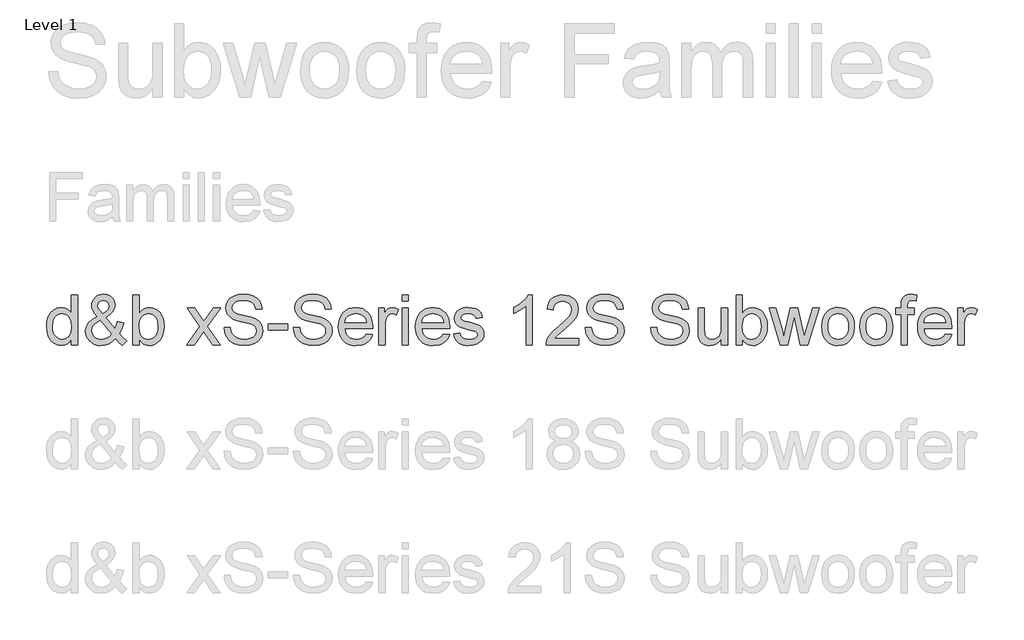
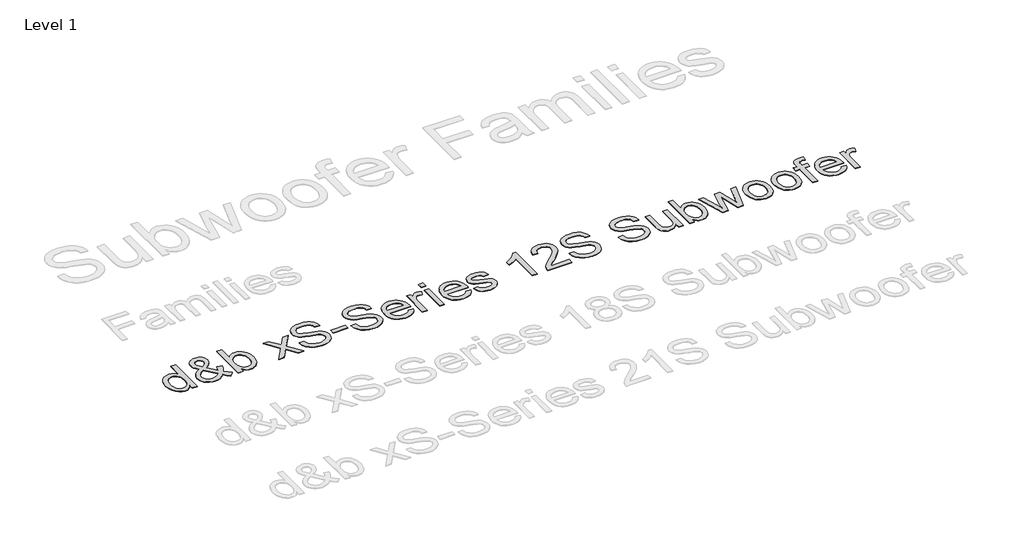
# One storey, part 23 of 55: 1 proxy.
"""IFC4 building model written with IfcOpenShell, lengths in millimetres."""

from ifc_helpers import new_model, si_unit, origin, origin_with_axes, place, context, project, spatial, polyline, outline, extrude, element, save

model = new_model("IFC4")

# Units and contexts
model_context = context("Model", 3, world=origin())
ifc_project = project(units=[si_unit("LENGTHUNIT", "METRE", prefix="MILLI")], contexts=[model_context])

# Site, building, storey
site = spatial("IfcSite", under=ifc_project)
building = spatial("IfcBuilding", under=site)
storey = spatial("IfcBuildingStorey", under=building, Name="Level 1", Elevation=0.0)

# Proxy
placement = place(None, origin())
element("IfcBuildingElementProxy", 1, Name="400mm Arial", ObjectType="400mm Arial", at=placement, inside=storey, context=model_context, shape_type="SweptSolid", body=[
    extrude(outline(polyline([(-20879.8211974, -14148.6945164), (-20879.8211974, -14101.3113154), (-20894.8491769, -14124.7883181), (-20913.0532043, -14141.5576057), (-20934.4332796, -14151.6191783), (-20958.9894028, -14154.9730358), (-20991.4611202, -14150.1169935), (-21021.1859854, -14135.5488665), (-21046.3491139, -14112.2864616), (-21065.1356211, -14081.3475858), (-21076.8342686, -14043.9830379), (-21080.7338177, -14001.4436165), (-21077.1408369, -13959.4314926), (-21066.3618945, -13921.4905962), (-21048.4092531, -13889.7791682), (-21023.2951755, -13866.4554497), (-20992.9203855, -13852.1080519), (-20959.1856065, -13847.325586), (-20934.6110892, -13850.7468885), (-20912.8815261, -13861.0107962), (-20894.4629008, -13876.7438829), (-20879.8211974, -13896.5727224), (-20879.8211974, -13746.8692758), (-20829.5930424, -13746.8692758), (-20829.5930424, -14148.6945164), (-20879.8211974, -14148.6945164)]), holes=[polyline([(-21030.5056627, -14001.2474128), (-21029.089317, -14025.6042665), (-21024.8402799, -14046.6808392), (-21017.7585515, -14064.4771307), (-21007.8441318, -14078.9931411), (-20983.1469871, -14098.3069458), (-20969.2717046, -14103.135397), (-20954.3786151, -14104.7448807), (-20939.415015, -14103.2089734), (-20925.6225058, -14098.6012514), (-20901.5507606, -14080.1703635), (-20892.0440767, -14066.2613584), (-20885.2535882, -14049.1088603), (-20879.8211974, -14005.0733855), (-20885.3516901, -13956.9298951), (-20892.2648059, -13938.3947739), (-20901.9431681, -13923.5507354), (-20913.6448812, -13912.1770504), (-20926.6280499, -13904.0529896), (-20940.8926743, -13899.1785532), (-20956.4387543, -13897.5537411), (-20971.6261493, -13899.1141738), (-20985.5014319, -13903.7954722), (-20998.064602, -13911.5976362), (-21009.3156597, -13922.5206658), (-21018.586286, -13936.8036843), (-21025.2081619, -13954.6858149), (-21030.5056627, -14001.2474128)])]), origin_with_axes(), (0.0, 0.0, 1.0), 5.0),
    extrude(outline(polyline([(-20523.809528, -14099.0549725), (-20549.3405384, -14123.5191252), (-20577.0788409, -14140.99352), (-20607.0734862, -14151.4781569), (-20639.3735254, -14154.9730358), (-20668.6814577, -14152.3855991), (-20694.8010793, -14144.623289), (-20717.7323904, -14131.6861055), (-20737.4753908, -14113.5740486), (-20750.308341, -14096.2038871), (-20759.4747341, -14077.8404442), (-20764.9745699, -14058.4837198), (-20766.8078485, -14038.1337141), (-20760.9094739, -14002.9396699), (-20743.2143499, -13971.3263438), (-20713.796053, -13943.3182613), (-20672.7281596, -13918.9399477), (-20694.6416638, -13890.5885086), (-20707.7995765, -13868.1231814), (-20714.3846642, -13848.9442668), (-20716.5796934, -13830.4520651), (-20714.8506481, -13812.8979626), (-20709.6635119, -13796.5333452), (-20701.018285, -13781.3582129), (-20688.9149674, -13767.3725657), (-20674.1935562, -13755.6555241), (-20657.6940487, -13747.2862088), (-20639.4164449, -13742.2646195), (-20619.3607448, -13740.5907564), (-20600.212487, -13742.1910431), (-20582.8913764, -13746.9919032), (-20567.397413, -13754.9933366), (-20553.7305969, -13766.1953433), (-20542.5715097, -13779.6414302), (-20534.6007332, -13794.3751041), (-20529.8182672, -13810.396365), (-20528.2241119, -13827.7052129), (-20532.9452642, -13855.68877), (-20547.108721, -13881.563137), (-20570.7144823, -13905.3283139), (-20603.7625482, -13926.9843007), (-20531.069066, -14017.5323224), (-20518.6837055, -13991.6579554), (-20509.3885538, -13961.9085647), (-20459.1603987, -13972.7978718), (-20474.6114425, -14019.3226815), (-20494.6732739, -14055.4977443), (-20466.1256311, -14088.8033276), (-20434.0463211, -14116.3209009), (-20471.7174374, -14154.9730358), (-20497.3465498, -14131.52669), (-20523.809528, -14099.0549725)]), holes=[polyline([(-20557.4584678, -14062.8553842), (-20647.1235727, -13950.9211558), (-20681.3733865, -13972.7733463), (-20702.305872, -13993.0068561), (-20713.0112381, -14012.3329235), (-20716.5796934, -14031.4627873), (-20711.6991256, -14055.1543878), (-20697.0574222, -14079.7289051), (-20686.2784798, -14090.6733944), (-20673.4639236, -14098.4908868), (-20658.6137537, -14103.1813823), (-20641.7279702, -14104.7448807), (-20619.0051256, -14101.8263502), (-20595.5710425, -14093.0707588), (-20574.1480476, -14079.6798541), (-20557.4584678, -14062.8553842)]), polyline([(-20629.1709314, -13895.2973981), (-20602.9041569, -13878.6323438), (-20587.8700461, -13864.1500559), (-20580.8067117, -13850.0601755), (-20578.452267, -13834.5723435), (-20581.5547385, -13817.0243723), (-20590.862153, -13803.0325938), (-20604.829406, -13793.8723321), (-20621.9113933, -13790.8189115), (-20639.3612626, -13793.8478066), (-20653.6473468, -13802.9344919), (-20663.1754905, -13816.3867102), (-20666.3515384, -13832.5122043), (-20662.0350563, -13850.9063041), (-20648.9875082, -13871.360543), (-20629.1709314, -13895.2973981)])]), origin_with_axes(), (0.0, 0.0, 1.0), 5.0),
    extrude(outline(polyline([(-20333.590011, -14148.6945164), (-20383.8181661, -14148.6945164), (-20383.8181661, -13746.8692758), (-20333.590011, -13746.8692758), (-20333.590011, -13895.8860093), (-20317.0721094, -13874.6408241), (-20298.4204923, -13859.4656918), (-20277.6351595, -13850.3606124), (-20254.7161112, -13847.325586), (-20228.8417442, -13850.0601755), (-20204.3898543, -13858.263944), (-20182.758393, -13871.4218567), (-20165.3453119, -13889.0188788), (-20151.6968898, -13910.883332), (-20141.3594058, -13936.8435381), (-20134.8478945, -13965.8203766), (-20132.6773907, -13996.734727), (-20134.9245365, -14032.4070178), (-20141.6659741, -14063.7873519), (-20152.9017034, -14090.8757295), (-20168.6317244, -14113.6721505), (-20187.5132678, -14131.7412878), (-20208.2035643, -14144.6478145), (-20230.702614, -14152.3917305), (-20255.0104168, -14154.9730358), (-20278.6836232, -14151.6437038), (-20299.671291, -14141.6557076), (-20317.9734203, -14125.0090473), (-20333.590011, -14101.7037229), (-20333.590011, -14148.6945164)]), holes=[polyline([(-20333.590011, -13999.0891717), (-20330.1564457, -14040.9786682), (-20319.8557498, -14069.3301073), (-20307.6849872, -14084.8240707), (-20293.5399244, -14095.8911874), (-20277.4205617, -14102.5314574), (-20259.3268989, -14104.7448807), (-20244.3050508, -14103.1139372), (-20230.3377977, -14098.2211067), (-20217.4251396, -14090.0663891), (-20205.5670767, -14078.6497845), (-20195.6526569, -14064.0019498), (-20188.5709285, -14046.1535416), (-20184.3218914, -14025.1045601), (-20182.9055458, -14000.8550053), (-20188.3379366, -13954.8942814), (-20195.1284251, -13937.1010555), (-20204.6351089, -13922.7659205), (-20216.0670419, -13911.735592), (-20228.6332778, -13903.8567859), (-20242.3338164, -13899.1295023), (-20257.1686579, -13897.5537411), (-20272.190506, -13899.1846846), (-20286.1577591, -13904.0775151), (-20299.0704171, -13912.2322327), (-20310.9284801, -13923.6488372), (-20320.8428999, -13938.1495192), (-20327.9246283, -13955.556469), (-20332.1736653, -13975.8696865), (-20333.590011, -13999.0891717)])]), origin_with_axes(), (0.0, 0.0, 1.0), 5.0),
    extrude(outline(polyline([(-19950.6003285, -14148.6945164), (-19843.2768878, -14000.2663941), (-19944.3218092, -13853.6041054), (-19884.0872638, -13853.6041054), (-19835.3306367, -13924.3355503), (-19812.4729021, -13957.5920827), (-19792.6563253, -13930.3197641), (-19737.1306695, -13853.6041054), (-19676.6999204, -13853.6041054), (-19782.8461387, -14000.364496), (-19680.623995, -14148.6945164), (-19740.9566422, -14148.6945164), (-19802.5646137, -14059.4218189), (-19813.7482263, -14043.0388074), (-19890.1695795, -14148.6945164), (-19950.6003285, -14148.6945164)])), origin_with_axes(), (0.0, 0.0, 1.0), 5.0),
    extrude(outline(polyline([(-19649.2313981, -14010.56709), (-19599.003243, -14010.56709), (-19593.2397584, -14038.4402825), (-19582.8164352, -14060.844296), (-19566.556051, -14078.6252591), (-19543.2813835, -14092.6293004), (-19514.8318425, -14101.7159856), (-19483.0468381, -14104.7448807), (-19455.063281, -14102.4517496), (-19430.5623402, -14095.5723563), (-19410.7089752, -14084.6830493), (-19396.6681457, -14070.3601769), (-19388.3172244, -14053.9158517), (-19385.533584, -14036.6621862), (-19387.6182486, -14019.849979), (-19393.8722425, -14005.3186402), (-19406.5764341, -13992.9210169), (-19428.0116917, -13982.5099565), (-19501.1466323, -13963.3310418), (-19549.1552327, -13950.639113), (-19579.8733793, -13938.5603208), (-19604.8770922, -13921.6622745), (-19622.5967416, -13901.1835101), (-19633.1549549, -13877.565486), (-19636.6743593, -13851.2496606), (-19632.3210891, -13821.8313637), (-19619.2612782, -13794.3996296), (-19597.8382834, -13771.1494875), (-19568.395461, -13754.2759667), (-19533.054264, -13744.012059), (-19493.9361452, -13740.5907564), (-19451.5561394, -13744.1714745), (-19414.4736342, -13754.9136288), (-19384.013005, -13772.59649), (-19361.4986269, -13796.999329), (-19347.249331, -13826.6015669), (-19341.5839483, -13859.8826247), (-19391.8121033, -13859.8826247), (-19401.0336787, -13829.9125049), (-19409.3968627, -13818.0544419), (-19420.2616443, -13808.2810436), (-19450.3053406, -13795.1844445), (-19491.9741079, -13790.8189115), (-19534.6238939, -13795.1353936), (-19550.9271976, -13800.5309962), (-19563.8827752, -13808.0848398), (-19580.805347, -13827.1411272), (-19586.4462043, -13849.7781326), (-19582.4485532, -13869.0796746), (-19570.4556002, -13884.6042948), (-19542.1041611, -13898.4857088), (-19488.4424407, -13912.6614283), (-19433.0639377, -13926.1259093), (-19399.5621507, -13937.8736077), (-19370.9286687, -13956.0960292), (-19350.9526764, -13978.5858819), (-19339.2172408, -14005.097911), (-19335.3054289, -14035.3868619), (-19339.805852, -14066.3502632), (-19353.3071212, -14095.4742545), (-19375.2574136, -14120.5392811), (-19405.1049061, -14139.3257883), (-19440.9979261, -14151.0612239), (-19481.0848008, -14154.9730358), (-19530.2951491, -14150.7546556), (-19570.7989567, -14138.099515), (-19603.0622077, -14116.958563), (-19627.5508858, -14087.2827487), (-19643.2717098, -14051.1322113), (-19649.2313981, -14010.56709)])), origin_with_axes(), (0.0, 0.0, 1.0), 5.0),
    extrude(outline(polyline([(-19291.3557932, -14029.4026481), (-19291.3557932, -13979.174493), (-19134.3928086, -13979.174493), (-19134.3928086, -14029.4026481), (-19291.3557932, -14029.4026481)])), origin_with_axes(), (0.0, 0.0, 1.0), 5.0),
    extrude(outline(polyline([(-19090.4431729, -14010.56709), (-19040.2150178, -14010.56709), (-19034.4515332, -14038.4402825), (-19024.02821, -14060.844296), (-19007.7678258, -14078.6252591), (-18984.4931583, -14092.6293004), (-18956.0436173, -14101.7159856), (-18924.2586129, -14104.7448807), (-18896.2750558, -14102.4517496), (-18871.774115, -14095.5723563), (-18851.9207499, -14084.6830493), (-18837.8799205, -14070.3601769), (-18829.5289992, -14053.9158517), (-18826.7453587, -14036.6621862), (-18828.8300234, -14019.849979), (-18835.0840173, -14005.3186402), (-18847.7882089, -13992.9210169), (-18869.2234665, -13982.5099565), (-18942.3584071, -13963.3310418), (-18990.3670075, -13950.639113), (-19021.0851541, -13938.5603208), (-19046.088867, -13921.6622745), (-19063.8085164, -13901.1835101), (-19074.3667297, -13877.565486), (-19077.8861341, -13851.2496606), (-19073.5328638, -13821.8313637), (-19060.473053, -13794.3996296), (-19039.0500582, -13771.1494875), (-19009.6072358, -13754.2759667), (-18974.2660388, -13744.012059), (-18935.14792, -13740.5907564), (-18892.7679141, -13744.1714745), (-18855.685409, -13754.9136288), (-18825.2247798, -13772.59649), (-18802.7104017, -13796.999329), (-18788.4611058, -13826.6015669), (-18782.7957231, -13859.8826247), (-18833.0238781, -13859.8826247), (-18842.2454535, -13829.9125049), (-18850.6086375, -13818.0544419), (-18861.4734191, -13808.2810436), (-18891.5171154, -13795.1844445), (-18933.1858827, -13790.8189115), (-18975.8356687, -13795.1353936), (-18992.1389724, -13800.5309962), (-19005.09455, -13808.0848398), (-19022.0171218, -13827.1411272), (-19027.657979, -13849.7781326), (-19023.660328, -13869.0796746), (-19011.667375, -13884.6042948), (-18983.3159359, -13898.4857088), (-18929.6542155, -13912.6614283), (-18874.2757125, -13926.1259093), (-18840.7739255, -13937.8736077), (-18812.1404435, -13956.0960292), (-18792.1644512, -13978.5858819), (-18780.4290156, -14005.097911), (-18776.5172037, -14035.3868619), (-18781.0176267, -14066.3502632), (-18794.518896, -14095.4742545), (-18816.4691883, -14120.5392811), (-18846.3166809, -14139.3257883), (-18882.2097009, -14151.0612239), (-18922.2965756, -14154.9730358), (-18971.5069238, -14150.7546556), (-19012.0107315, -14138.099515), (-19044.2739825, -14116.958563), (-19068.7626606, -14087.2827487), (-19084.4834846, -14051.1322113), (-19090.4431729, -14010.56709)])), origin_with_axes(), (0.0, 0.0, 1.0), 5.0),
    extrude(outline(polyline([(-18500.850962, -14060.795245), (-18451.6038255, -14067.0737644), (-18459.1546035, -14086.7983707), (-18469.3480004, -14104.180795), (-18482.1840164, -14119.2210372), (-18497.6626513, -14131.9190974), (-18515.6244897, -14142.0051955), (-18535.9101161, -14149.2095512), (-18583.4527326, -14154.9730358), (-18614.618469, -14152.4867667), (-18642.3874282, -14145.0279592), (-18666.7596104, -14132.5966135), (-18687.7350155, -14115.1927294), (-18704.602405, -14093.300685), (-18716.6505403, -14067.4048582), (-18723.8794215, -14037.5052491), (-18726.2890486, -14003.6018575), (-18723.8548961, -13968.5488348), (-18716.5524385, -13937.6528785), (-18704.3816758, -13910.9139888), (-18687.342608, -13888.3321657), (-18666.4223852, -13870.3917871), (-18642.6081574, -13857.5772309), (-18615.8999246, -13849.8884972), (-18586.2976867, -13847.325586), (-18557.6488763, -13849.8823658), (-18531.7407868, -13857.5527054), (-18508.5734182, -13870.3366048), (-18488.1467704, -13888.2340638), (-18471.472519, -13910.766836), (-18459.5623394, -13937.4566748), (-18452.4162316, -13968.3035801), (-18450.0341957, -14003.3075519), (-18450.3285013, -14016.8456094), (-18676.0608935, -14016.8456094), (-18673.1515601, -14036.8890467), (-18667.3666157, -14054.4431493), (-18658.7060604, -14069.507917), (-18647.1698942, -14082.0833498), (-18633.3957791, -14091.9977696), (-18618.0213774, -14099.079498), (-18582.4717139, -14104.7448807), (-18555.7389556, -14102.1206558), (-18533.2245775, -14094.2479811), (-18514.9285796, -14080.6363473), (-18500.850962, -14060.795245)]), holes=[polyline([(-18676.0608935, -13966.6174543), (-18500.2623508, -13966.6174543), (-18507.0559049, -13940.0808997), (-18520.3732332, -13921.0981887), (-18534.0707061, -13910.7974929), (-18549.65664, -13903.439853), (-18567.1310348, -13899.025269), (-18586.4938904, -13897.5537411), (-18620.3512967, -13902.2503679), (-18648.3471166, -13916.3402483), (-18667.8080741, -13938.3028034), (-18676.0608935, -13966.6174543)])]), origin_with_axes(), (0.0, 0.0, 1.0), 5.0),
    extrude(outline(polyline([(-18399.8060406, -14148.6945164), (-18399.8060406, -13853.6041054), (-18355.8564049, -13853.6041054), (-18355.8564049, -13897.2594355), (-18339.6205462, -13871.9491542), (-18324.6600117, -13857.0376707), (-18309.6504263, -13849.7536071), (-18293.2674148, -13847.325586), (-18268.2514391, -13851.2006097), (-18242.843056, -13862.8256807), (-18259.618475, -13907.8544369), (-18277.2768108, -13900.128915), (-18294.9351465, -13897.5537411), (-18309.9324692, -13900.0308132), (-18323.3356365, -13907.4620295), (-18334.1636299, -13919.2833042), (-18341.4354307, -13934.9305518), (-18347.5422718, -13962.9876853), (-18349.5778855, -13993.5954673), (-18349.5778855, -14148.6945164), (-18399.8060406, -14148.6945164)])), origin_with_axes(), (0.0, 0.0, 1.0), 5.0),
    extrude(outline(polyline([(-18211.4504591, -13797.0974309), (-18211.4504591, -13746.8692758), (-18161.222304, -13746.8692758), (-18161.222304, -13797.0974309), (-18211.4504591, -13797.0974309)])), origin_with_axes(), (0.0, 0.0, 1.0), 5.0),
    extrude(outline(polyline([(-18211.4504591, -14148.6945164), (-18211.4504591, -13853.6041054), (-18161.222304, -13853.6041054), (-18161.222304, -14148.6945164), (-18211.4504591, -14148.6945164)])), origin_with_axes(), (0.0, 0.0, 1.0), 5.0),
    extrude(outline(polyline([(-17879.2775429, -14060.795245), (-17830.0304065, -14067.0737644), (-17837.5811844, -14086.7983707), (-17847.7745814, -14104.180795), (-17860.6105973, -14119.2210372), (-17876.0892323, -14131.9190974), (-17894.0510707, -14142.0051955), (-17914.336697, -14149.2095512), (-17961.8793136, -14154.9730358), (-17993.0450499, -14152.4867667), (-18020.8140092, -14145.0279592), (-18045.1861914, -14132.5966135), (-18066.1615965, -14115.1927294), (-18083.0289859, -14093.300685), (-18095.0771213, -14067.4048582), (-18102.3060025, -14037.5052491), (-18104.7156295, -14003.6018575), (-18102.281477, -13968.5488348), (-18094.9790194, -13937.6528785), (-18082.8082567, -13910.9139888), (-18065.769189, -13888.3321657), (-18044.8489662, -13870.3917871), (-18021.0347384, -13857.5772309), (-17994.3265055, -13849.8884972), (-17964.7242676, -13847.325586), (-17936.0754573, -13849.8823658), (-17910.1673678, -13857.5527054), (-17886.9999991, -13870.3366048), (-17866.5733513, -13888.2340638), (-17849.8990999, -13910.766836), (-17837.9889203, -13937.4566748), (-17830.8428126, -13968.3035801), (-17828.4607766, -14003.3075519), (-17828.7550822, -14016.8456094), (-18054.4874745, -14016.8456094), (-18051.578141, -14036.8890467), (-18045.7931967, -14054.4431493), (-18037.1326413, -14069.507917), (-18025.5964751, -14082.0833498), (-18011.8223601, -14091.9977696), (-17996.4479584, -14099.079498), (-17960.8982949, -14104.7448807), (-17934.1655366, -14102.1206558), (-17911.6511585, -14094.2479811), (-17893.3551606, -14080.6363473), (-17879.2775429, -14060.795245)]), holes=[polyline([(-18054.4874745, -13966.6174543), (-17878.6889317, -13966.6174543), (-17885.4824859, -13940.0808997), (-17898.7998141, -13921.0981887), (-17912.4972871, -13910.7974929), (-17928.0832209, -13903.439853), (-17945.5576157, -13899.025269), (-17964.9204714, -13897.5537411), (-17998.7778777, -13902.2503679), (-18026.7736975, -13916.3402483), (-18046.234655, -13938.3028034), (-18054.4874745, -13966.6174543)])]), origin_with_axes(), (0.0, 0.0, 1.0), 5.0),
    extrude(outline(polyline([(-17797.0681797, -14060.795245), (-17746.8400246, -14054.5167257), (-17738.918299, -14076.0010342), (-17723.5898825, -14091.7954345), (-17700.7566734, -14101.5075192), (-17670.3205696, -14104.7448807), (-17640.2523479, -14101.7772993), (-17619.1113959, -14092.874555), (-17606.6034081, -14079.9741597), (-17602.4340788, -14065.0136253), (-17606.6279335, -14052.2113318), (-17619.2094978, -14042.4501962), (-17670.9091808, -14028.1273239), (-17746.545719, -14003.5528066), (-17765.6878455, -13991.2042343), (-17779.5569967, -13974.858011), (-17787.9814944, -13955.556469), (-17790.7896603, -13934.3419406), (-17788.5333174, -13914.880983), (-17781.7642887, -13896.9160789), (-17771.0957109, -13881.1584668), (-17757.1407205, -13868.3193852), (-17725.2085633, -13853.4569526), (-17704.3251287, -13848.8584276), (-17681.9946916, -13847.325586), (-17649.302245, -13849.7903953), (-17620.8772295, -13857.1848234), (-17598.0194949, -13868.785369), (-17582.0288908, -13883.8685308), (-17571.4338893, -13903.5502176), (-17564.7629625, -13928.946338), (-17614.9911176, -13935.2248574), (-17621.3309506, -13919.4181943), (-17633.8757267, -13907.5110804), (-17652.748073, -13900.0430759), (-17678.070617, -13897.5537411), (-17706.9125654, -13899.9327113), (-17726.140531, -13907.069622), (-17736.9562617, -13917.3703179), (-17740.5615053, -13929.2406436), (-17734.5772915, -13943.8578215), (-17715.8398352, -13954.9433323), (-17672.5769125, -13965.6364356), (-17598.8533607, -13989.2789852), (-17579.3801404, -14000.5852252), (-17564.6158097, -14016.0607944), (-17555.3083952, -14035.7547439), (-17552.2059237, -14059.7161245), (-17555.8479555, -14084.4868455), (-17566.7740507, -14107.7860386), (-17584.5672766, -14127.7865564), (-17608.8107, -14142.6612517), (-17638.0941069, -14151.8950898), (-17671.0072827, -14154.9730358), (-17698.040478, -14153.4892451), (-17721.6523707, -14149.037873), (-17741.8429609, -14141.6189194), (-17758.6122485, -14131.2323844), (-17772.3097214, -14117.9273189), (-17783.2848676, -14101.7527738), (-17791.5376871, -14082.7087492), (-17797.0681797, -14060.795245)])), origin_with_axes(), (0.0, 0.0, 1.0), 5.0),
    extrude(outline(polyline([(-17162.9377219, -14148.6945164), (-17213.165877, -14148.6945164), (-17213.165877, -13835.5533621), (-17234.1351507, -13852.5127221), (-17260.7452817, -13869.4475566), (-17313.6221871, -13894.8068888), (-17313.6221871, -13847.325586), (-17274.1729745, -13825.8658029), (-17239.9967371, -13800.3347925), (-17213.0555124, -13773.1851012), (-17195.3113375, -13746.8692758), (-17162.9377219, -13746.8692758), (-17162.9377219, -14148.6945164)])), origin_with_axes(), (0.0, 0.0, 1.0), 5.0),
    extrude(outline(polyline([(-16786.2265588, -14098.4663614), (-16786.2265588, -14148.6945164), (-17049.924373, -14148.6945164), (-17048.820727, -14131.0116552), (-17044.5287704, -14114.0645579), (-17032.1311471, -14087.0007058), (-17013.9700393, -14060.7461941), (-16987.7155276, -14033.2654091), (-16951.0376927, -14002.522737), (-16896.8486748, -13954.3792466), (-16864.3646946, -13918.8418458), (-16848.1410986, -13889.9998974), (-16842.7332333, -13861.9427639), (-16847.846793, -13836.7918982), (-16863.1874722, -13815.8839381), (-16886.7687081, -13801.7940577), (-16916.6039379, -13797.0974309), (-16947.9352212, -13801.6836931), (-16972.2767465, -13815.4424797), (-16987.9853077, -13837.2946702), (-16993.4176985, -13866.1611441), (-17043.6458536, -13859.8826247), (-17039.3263058, -13833.9530755), (-17031.4689596, -13811.2976759), (-17020.0738147, -13791.9164261), (-17005.1408714, -13775.8093261), (-16987.0134861, -13763.1480541), (-16966.0350153, -13754.1042884), (-16942.2054591, -13748.678029), (-16915.5248174, -13746.8692758), (-16888.6050524, -13748.8803641), (-16864.6467375, -13754.9136288), (-16843.6498726, -13764.96907), (-16825.6144578, -13779.0466877), (-16811.1291042, -13796.1041495), (-16800.7824231, -13815.0991232), (-16794.5744144, -13836.0316087), (-16792.5050782, -13858.9016061), (-16794.7368957, -13882.9243004), (-16801.432348, -13906.5300617), (-16813.3149364, -13930.5404933), (-16831.1081622, -13955.7771982), (-16859.4718641, -13985.9067336), (-16903.0658805, -14024.5956567), (-16960.8478792, -14072.9108254), (-16983.5094101, -14098.4663614), (-16786.2265588, -14098.4663614)])), origin_with_axes(), (0.0, 0.0, 1.0), 5.0),
    extrude(outline(polyline([(-16735.9984038, -14010.56709), (-16685.7702487, -14010.56709), (-16680.0067641, -14038.4402825), (-16669.5834409, -14060.844296), (-16653.3230567, -14078.6252591), (-16630.0483891, -14092.6293004), (-16601.5988482, -14101.7159856), (-16569.8138438, -14104.7448807), (-16541.8302867, -14102.4517496), (-16517.3293458, -14095.5723563), (-16497.4759808, -14084.6830493), (-16483.4351513, -14070.3601769), (-16475.08423, -14053.9158517), (-16472.3005896, -14036.6621862), (-16474.3852543, -14019.849979), (-16480.6392482, -14005.3186402), (-16493.3434397, -13992.9210169), (-16514.7786973, -13982.5099565), (-16587.913638, -13963.3310418), (-16635.9222383, -13950.639113), (-16666.6403849, -13938.5603208), (-16691.6440979, -13921.6622745), (-16709.3637473, -13901.1835101), (-16719.9219606, -13877.565486), (-16723.441365, -13851.2496606), (-16719.0880947, -13821.8313637), (-16706.0282839, -13794.3996296), (-16684.605289, -13771.1494875), (-16655.1624667, -13754.2759667), (-16619.8212697, -13744.012059), (-16580.7031509, -13740.5907564), (-16538.323145, -13744.1714745), (-16501.2406399, -13754.9136288), (-16470.7800107, -13772.59649), (-16448.2656326, -13796.999329), (-16434.0163367, -13826.6015669), (-16428.3509539, -13859.8826247), (-16478.579109, -13859.8826247), (-16487.8006843, -13829.9125049), (-16496.1638684, -13818.0544419), (-16507.02865, -13808.2810436), (-16537.0723462, -13795.1844445), (-16578.7411136, -13790.8189115), (-16621.3908995, -13795.1353936), (-16637.6942033, -13800.5309962), (-16650.6497809, -13808.0848398), (-16667.5723527, -13827.1411272), (-16673.2132099, -13849.7781326), (-16669.2155589, -13869.0796746), (-16657.2226059, -13884.6042948), (-16628.8711668, -13898.4857088), (-16575.2094464, -13912.6614283), (-16519.8309434, -13926.1259093), (-16486.3291564, -13937.8736077), (-16457.6956744, -13956.0960292), (-16437.7196821, -13978.5858819), (-16425.9842464, -14005.097911), (-16422.0724345, -14035.3868619), (-16426.5728576, -14066.3502632), (-16440.0741268, -14095.4742545), (-16462.0244192, -14120.5392811), (-16491.8719118, -14139.3257883), (-16527.7649318, -14151.0612239), (-16567.8518065, -14154.9730358), (-16617.0621547, -14150.7546556), (-16657.5659624, -14138.099515), (-16689.8292134, -14116.958563), (-16714.3178915, -14087.2827487), (-16730.0387154, -14051.1322113), (-16735.9984038, -14010.56709)])), origin_with_axes(), (0.0, 0.0, 1.0), 5.0),
    extrude(outline(polyline([(-16208.6027755, -14010.56709), (-16158.3746204, -14010.56709), (-16152.6111358, -14038.4402825), (-16142.1878126, -14060.844296), (-16125.9274284, -14078.6252591), (-16102.6527609, -14092.6293004), (-16074.2032199, -14101.7159856), (-16042.4182155, -14104.7448807), (-16014.4346584, -14102.4517496), (-15989.9337175, -14095.5723563), (-15970.0803525, -14084.6830493), (-15956.0395231, -14070.3601769), (-15947.6886018, -14053.9158517), (-15944.9049613, -14036.6621862), (-15946.989626, -14019.849979), (-15953.2436199, -14005.3186402), (-15965.9478115, -13992.9210169), (-15987.383069, -13982.5099565), (-16060.5180097, -13963.3310418), (-16108.5266101, -13950.639113), (-16139.2447566, -13938.5603208), (-16164.2484696, -13921.6622745), (-16181.968119, -13901.1835101), (-16192.5263323, -13877.565486), (-16196.0457367, -13851.2496606), (-16191.6924664, -13821.8313637), (-16178.6326556, -13794.3996296), (-16157.2096607, -13771.1494875), (-16127.7668384, -13754.2759667), (-16092.4256414, -13744.012059), (-16053.3075226, -13740.5907564), (-16010.9275167, -13744.1714745), (-15973.8450116, -13754.9136288), (-15943.3843824, -13772.59649), (-15920.8700043, -13796.999329), (-15906.6207084, -13826.6015669), (-15900.9553256, -13859.8826247), (-15951.1834807, -13859.8826247), (-15960.4050561, -13829.9125049), (-15968.7682401, -13818.0544419), (-15979.6330217, -13808.2810436), (-16009.6767179, -13795.1844445), (-16051.3454853, -13790.8189115), (-16093.9952712, -13795.1353936), (-16110.298575, -13800.5309962), (-16123.2541526, -13808.0848398), (-16140.1767244, -13827.1411272), (-16145.8175816, -13849.7781326), (-16141.8199306, -13869.0796746), (-16129.8269776, -13884.6042948), (-16101.4755385, -13898.4857088), (-16047.8138181, -13912.6614283), (-15992.4353151, -13926.1259093), (-15958.9335281, -13937.8736077), (-15930.3000461, -13956.0960292), (-15910.3240538, -13978.5858819), (-15898.5886181, -14005.097911), (-15894.6768063, -14035.3868619), (-15899.1772293, -14066.3502632), (-15912.6784986, -14095.4742545), (-15934.6287909, -14120.5392811), (-15964.4762835, -14139.3257883), (-16000.3693035, -14151.0612239), (-16040.4561782, -14154.9730358), (-16089.6665264, -14150.7546556), (-16130.1703341, -14138.099515), (-16162.4335851, -14116.958563), (-16186.9222632, -14087.2827487), (-16202.6430872, -14051.1322113), (-16208.6027755, -14010.56709)])), origin_with_axes(), (0.0, 0.0, 1.0), 5.0),
    extrude(outline(polyline([(-15637.2575115, -14148.6945164), (-15637.2575115, -14097.975852), (-15655.4308821, -14122.9121199), (-15676.5963595, -14140.7237399), (-15700.7539439, -14151.4107118), (-15727.9036351, -14154.9730358), (-15752.3677878, -14152.4714382), (-15775.1396833, -14144.9666455), (-15794.2450216, -14133.684931), (-15807.7095026, -14119.852568), (-15816.7716624, -14103.0526236), (-15822.6700371, -14082.8681648), (-15825.613093, -14036.1716768), (-15825.613093, -13853.6041054), (-15775.384938, -13853.6041054), (-15775.384938, -14012.5291273), (-15772.3437801, -14063.738301), (-15765.0229284, -14080.8202883), (-15752.4781524, -14093.8065227), (-15735.5433179, -14102.0102912), (-15715.0522907, -14104.7448807), (-15693.3840412, -14101.9489776), (-15673.1137433, -14093.5612681), (-15656.399638, -14080.3543045), (-15645.3999663, -14063.1006389), (-15639.2931252, -14039.4703521), (-15637.2575115, -14007.1335247), (-15637.2575115, -13853.6041054), (-15587.0293564, -13853.6041054), (-15587.0293564, -14148.6945164), (-15637.2575115, -14148.6945164)])), origin_with_axes(), (0.0, 0.0, 1.0), 5.0),
    extrude(outline(polyline([(-15467.7374881, -14148.6945164), (-15517.9656432, -14148.6945164), (-15517.9656432, -13746.8692758), (-15467.7374881, -13746.8692758), (-15467.7374881, -13895.8860093), (-15451.2195865, -13874.6408241), (-15432.5679694, -13859.4656918), (-15411.7826367, -13850.3606124), (-15388.8635884, -13847.325586), (-15362.9892214, -13850.0601755), (-15338.5373314, -13858.263944), (-15316.9058701, -13871.4218567), (-15299.492789, -13889.0188788), (-15285.844367, -13910.883332), (-15275.5068829, -13936.8435381), (-15268.9953716, -13965.8203766), (-15266.8248678, -13996.734727), (-15269.0720137, -14032.4070178), (-15275.8134512, -14063.7873519), (-15287.0491805, -14090.8757295), (-15302.7792015, -14113.6721505), (-15321.6607449, -14131.7412878), (-15342.3510414, -14144.6478145), (-15364.8500911, -14152.3917305), (-15389.1578939, -14154.9730358), (-15412.8311003, -14151.6437038), (-15433.8187682, -14141.6557076), (-15452.1208974, -14125.0090473), (-15467.7374881, -14101.7037229), (-15467.7374881, -14148.6945164)]), holes=[polyline([(-15467.7374881, -13999.0891717), (-15464.3039228, -14040.9786682), (-15454.003227, -14069.3301073), (-15441.8324643, -14084.8240707), (-15427.6874016, -14095.8911874), (-15411.5680388, -14102.5314574), (-15393.474376, -14104.7448807), (-15378.4525279, -14103.1139372), (-15364.4852748, -14098.2211067), (-15351.5726168, -14090.0663891), (-15339.7145538, -14078.6497845), (-15329.800134, -14064.0019498), (-15322.7184056, -14046.1535416), (-15318.4693686, -14025.1045601), (-15317.0530229, -14000.8550053), (-15322.4854137, -13954.8942814), (-15329.2759022, -13937.1010555), (-15338.7825861, -13922.7659205), (-15350.2145191, -13911.735592), (-15362.7807549, -13903.8567859), (-15376.4812935, -13899.1295023), (-15391.316135, -13897.5537411), (-15406.3379831, -13899.1846846), (-15420.3052362, -13904.0775151), (-15433.2178942, -13912.2322327), (-15445.0759572, -13923.6488372), (-15454.990377, -13938.1495192), (-15462.0721054, -13955.556469), (-15466.3211424, -13975.8696865), (-15467.7374881, -13999.0891717)])]), origin_with_axes(), (0.0, 0.0, 1.0), 5.0),
    extrude(outline(polyline([(-15160.9729551, -14148.6945164), (-15251.1285694, -13853.6041054), (-15199.0364788, -13853.6041054), (-15148.0235088, -14025.7728791), (-15132.8177197, -14087.2827487), (-15120.3587828, -14028.029222), (-15079.8427124, -13853.6041054), (-15020.1967783, -13853.6041054), (-14979.6807079, -14027.5387127), (-14968.5951971, -14081.200433), (-14952.7026949, -14024.5956567), (-14901.6897249, -13853.6041054), (-14849.3033288, -13853.6041054), (-14939.7532486, -14148.6945164), (-15000.3802014, -14148.6945164), (-15039.0323364, -13975.6428259), (-15050.2159491, -13921.6867999), (-15099.9535948, -14148.6945164), (-15160.9729551, -14148.6945164)])), origin_with_axes(), (0.0, 0.0, 1.0), 5.0),
    extrude(outline(polyline([(-14827.3285109, -14001.1493109), (-14824.6123155, -13962.932503), (-14816.4637293, -13930.000933), (-14802.8827523, -13902.3546011), (-14783.8693846, -13879.9935072), (-14764.7272581, -13865.7012916), (-14743.5985688, -13855.4925663), (-14720.4833168, -13849.3673311), (-14695.381502, -13847.325586), (-14667.6707907, -13849.8118551), (-14642.6149611, -13857.2706626), (-14620.2140133, -13869.7020083), (-14600.4679472, -13887.1058924), (-14584.3516502, -13908.8937036), (-14572.8400094, -13934.4768306), (-14565.9330249, -13963.8552736), (-14563.6306968, -13997.0290325), (-14567.7019242, -14047.7722224), (-14579.9156064, -14086.3998319), (-14599.9161242, -14115.3276195), (-14627.3478583, -14136.9713435), (-14659.9299404, -14150.4726127), (-14695.381502, -14154.9730358), (-14723.4968835, -14152.4959637), (-14748.7857049, -14145.0647474), (-14771.2479664, -14132.6793869), (-14790.8836679, -14115.3398822), (-14806.8282867, -14093.3405389), (-14818.2173002, -14066.9756626), (-14825.0507082, -14036.2452532), (-14827.3285109, -14001.1493109)]), holes=[polyline([(-14777.1003558, -14001.051209), (-14775.647222, -14025.4141942), (-14771.2878203, -14046.5091609), (-14764.0221509, -14064.3361093), (-14753.8502137, -14078.8950392), (-14741.477116, -14090.2043449), (-14727.6079648, -14098.2824204), (-14712.2427601, -14103.1292656), (-14695.381502, -14104.7448807), (-14678.606083, -14103.1200686), (-14663.302192, -14098.2456322), (-14649.469829, -14090.1215714), (-14637.1089939, -14078.7478864), (-14626.9370568, -14064.0448693), (-14619.6713874, -14045.9328124), (-14615.3119857, -14024.4117157), (-14613.8588518, -13999.4815792), (-14615.3211828, -13975.8911462), (-14619.7081756, -13955.3480025), (-14627.0198302, -13937.8521479), (-14637.2561467, -13923.4035826), (-14649.662967, -13912.0942769), (-14663.486133, -13904.0162014), (-14678.7256446, -13899.1693561), (-14695.381502, -13897.5537411), (-14712.2427601, -13899.1632248), (-14727.6079648, -13903.991676), (-14741.477116, -13912.0390946), (-14753.8502137, -13923.3054807), (-14764.0221509, -13937.8214911), (-14771.2878203, -13955.6177826), (-14775.647222, -13976.6943553), (-14777.1003558, -14001.051209)])]), origin_with_axes(), (0.0, 0.0, 1.0), 5.0),
    extrude(outline(polyline([(-14519.6810611, -14001.1493109), (-14516.9648657, -13962.932503), (-14508.8162795, -13930.000933), (-14495.2353025, -13902.3546011), (-14476.2219347, -13879.9935072), (-14457.0798082, -13865.7012916), (-14435.951119, -13855.4925663), (-14412.8358669, -13849.3673311), (-14387.7340521, -13847.325586), (-14360.0233409, -13849.8118551), (-14334.9675113, -13857.2706626), (-14312.5665635, -13869.7020083), (-14292.8204974, -13887.1058924), (-14276.7042003, -13908.8937036), (-14265.1925596, -13934.4768306), (-14258.2855751, -13963.8552736), (-14255.9832469, -13997.0290325), (-14260.0544744, -14047.7722224), (-14272.2681566, -14086.3998319), (-14292.2686744, -14115.3276195), (-14319.7004085, -14136.9713435), (-14352.2824905, -14150.4726127), (-14387.7340521, -14154.9730358), (-14415.8494336, -14152.4959637), (-14441.1382551, -14145.0647474), (-14463.6005166, -14132.6793869), (-14483.2362181, -14115.3398822), (-14499.1808369, -14093.3405389), (-14510.5698503, -14066.9756626), (-14517.4032584, -14036.2452532), (-14519.6810611, -14001.1493109)]), holes=[polyline([(-14469.452906, -14001.051209), (-14467.9997721, -14025.4141942), (-14463.6403705, -14046.5091609), (-14456.3747011, -14064.3361093), (-14446.2027639, -14078.8950392), (-14433.8296661, -14090.2043449), (-14419.9605149, -14098.2824204), (-14404.5953103, -14103.1292656), (-14387.7340521, -14104.7448807), (-14370.9586332, -14103.1200686), (-14355.6547422, -14098.2456322), (-14341.8223791, -14090.1215714), (-14329.4615441, -14078.7478864), (-14319.2896069, -14064.0448693), (-14312.0239375, -14045.9328124), (-14307.6645359, -14024.4117157), (-14306.211402, -13999.4815792), (-14307.6737329, -13975.8911462), (-14312.0607257, -13955.3480025), (-14319.3723804, -13937.8521479), (-14329.6086969, -13923.4035826), (-14342.0155172, -13912.0942769), (-14355.8386832, -13904.0162014), (-14371.0781948, -13899.1693561), (-14387.7340521, -13897.5537411), (-14404.5953103, -13899.1632248), (-14419.9605149, -13903.991676), (-14433.8296661, -13912.0390946), (-14446.2027639, -13923.3054807), (-14456.3747011, -13937.8214911), (-14463.6403705, -13955.6177826), (-14467.9997721, -13976.6943553), (-14469.452906, -14001.051209)])]), origin_with_axes(), (0.0, 0.0, 1.0), 5.0),
    extrude(outline(polyline([(-14186.9195337, -14148.6945164), (-14186.9195337, -13903.8322604), (-14230.8691694, -13903.8322604), (-14230.8691694, -13853.6041054), (-14186.9195337, -13853.6041054), (-14186.9195337, -13823.8792402), (-14185.5951585, -13799.2801974), (-14181.622033, -13781.9897436), (-14171.5175408, -13765.2879011), (-14155.9193443, -13752.0686747), (-14134.0916792, -13743.460236), (-14105.2987817, -13740.5907564), (-14059.4852106, -13746.0844609), (-14066.8428505, -13793.1733563), (-14095.7829008, -13790.8189115), (-14114.8759763, -13792.9035762), (-14127.4207524, -13799.1575701), (-14134.3737221, -13811.1014722), (-14136.6913786, -13830.2558614), (-14136.6913786, -13853.6041054), (-14080.1847042, -13853.6041054), (-14080.1847042, -13903.8322604), (-14136.6913786, -13903.8322604), (-14136.6913786, -14148.6945164), (-14186.9195337, -14148.6945164)])), origin_with_axes(), (0.0, 0.0, 1.0), 5.0),
    extrude(outline(polyline([(-13829.63254, -14060.795245), (-13780.3854036, -14067.0737644), (-13787.9361815, -14086.7983707), (-13798.1295785, -14104.180795), (-13810.9655944, -14119.2210372), (-13826.4442294, -14131.9190974), (-13844.4060678, -14142.0051955), (-13864.6916941, -14149.2095512), (-13912.2343106, -14154.9730358), (-13943.400047, -14152.4867667), (-13971.1690063, -14145.0279592), (-13995.5411885, -14132.5966135), (-14016.5165935, -14115.1927294), (-14033.383983, -14093.300685), (-14045.4321184, -14067.4048582), (-14052.6609996, -14037.5052491), (-14055.0706266, -14003.6018575), (-14052.6364741, -13968.5488348), (-14045.3340165, -13937.6528785), (-14033.1632538, -13910.9139888), (-14016.1241861, -13888.3321657), (-13995.2039633, -13870.3917871), (-13971.3897355, -13857.5772309), (-13944.6815026, -13849.8884972), (-13915.0792647, -13847.325586), (-13886.4304544, -13849.8823658), (-13860.5223649, -13857.5527054), (-13837.3549962, -13870.3366048), (-13816.9283484, -13888.2340638), (-13800.254097, -13910.766836), (-13788.3439174, -13937.4566748), (-13781.1978096, -13968.3035801), (-13778.8157737, -14003.3075519), (-13779.1100793, -14016.8456094), (-14004.8424716, -14016.8456094), (-14001.9331381, -14036.8890467), (-13996.1481937, -14054.4431493), (-13987.4876384, -14069.507917), (-13975.9514722, -14082.0833498), (-13962.1773572, -14091.9977696), (-13946.8029555, -14099.079498), (-13911.253292, -14104.7448807), (-13884.5205337, -14102.1206558), (-13862.0061556, -14094.2479811), (-13843.7101577, -14080.6363473), (-13829.63254, -14060.795245)]), holes=[polyline([(-14004.8424716, -13966.6174543), (-13829.0439288, -13966.6174543), (-13835.837483, -13940.0808997), (-13849.1548112, -13921.0981887), (-13862.8522842, -13910.7974929), (-13878.438218, -13903.439853), (-13895.9126128, -13899.025269), (-13915.2754685, -13897.5537411), (-13949.1328748, -13902.2503679), (-13977.1286946, -13916.3402483), (-13996.5896521, -13938.3028034), (-14004.8424716, -13966.6174543)])]), origin_with_axes(), (0.0, 0.0, 1.0), 5.0),
    extrude(outline(polyline([(-13728.5876187, -14148.6945164), (-13728.5876187, -13853.6041054), (-13684.637983, -13853.6041054), (-13684.637983, -13897.2594355), (-13668.4021242, -13871.9491542), (-13653.4415898, -13857.0376707), (-13638.4320044, -13849.7536071), (-13622.0489929, -13847.325586), (-13597.0330172, -13851.2006097), (-13571.624634, -13862.8256807), (-13588.400053, -13907.8544369), (-13606.0583888, -13900.128915), (-13623.7167246, -13897.5537411), (-13638.7140472, -13900.0308132), (-13652.1172146, -13907.4620295), (-13662.945208, -13919.2833042), (-13670.2170088, -13934.9305518), (-13676.3238499, -13962.9876853), (-13678.3594636, -13993.5954673), (-13678.3594636, -14148.6945164), (-13728.5876187, -14148.6945164)])), origin_with_axes(), (0.0, 0.0, 1.0), 5.0),
])

save(model, "model.ifc")
